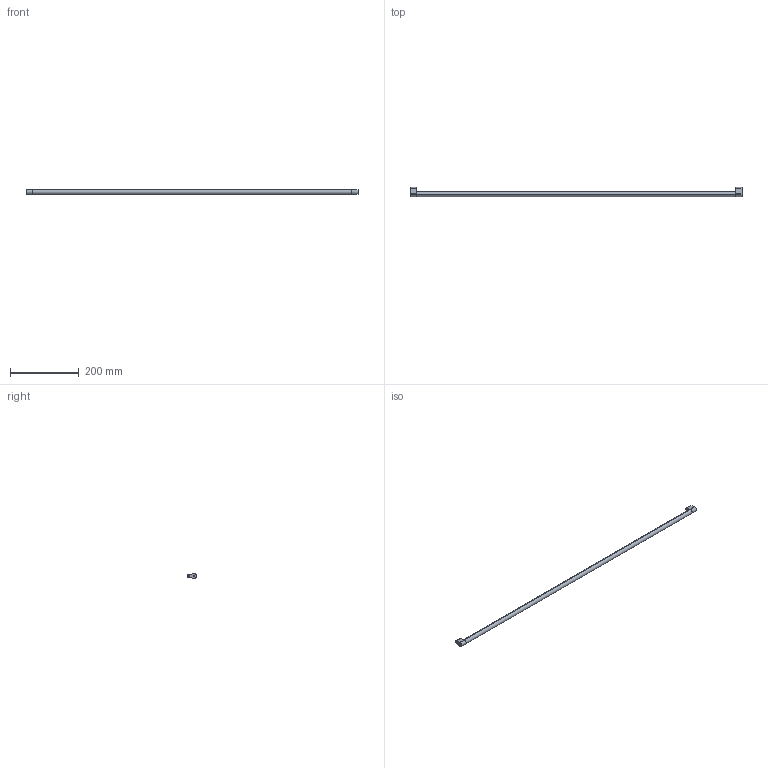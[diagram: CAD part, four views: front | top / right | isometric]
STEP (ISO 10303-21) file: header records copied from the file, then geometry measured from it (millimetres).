
FILE_DESCRIPTION (( 'STEP AP214' ), '1' );
FILE_NAME ('_Synchronisationseinheit Nova Pro KAB1050_S16.step', '2010-07-08T13:58:35', ( 'grass' ), ( '' ), 'SwSTEP 2.0', 'SolidWorks 2010', '' );
FILE_SCHEMA (( 'AUTOMOTIVE_DESIGN' ));
Length unit declared in the file: millimetre
Products named in the file (1): _Synchronisationseinheit Nova Pro KAB1050_S16
Bounding box: 965 x 26.5 x 14 mm (x, y, z)
Volume: 152237 mm3; surface area: 45289.9 mm2
Topology: 3 solids, 3 shells, 36 faces, 78 edges, 52 vertices
Faces by surface type: cylinder 18, plane 18
Entity records: 1050 total; most frequent: DIRECTION 188, CARTESIAN_POINT 167, ORIENTED_EDGE 156, EDGE_CURVE 78, AXIS2_PLACEMENT_3D 73, VERTEX_POINT 52, LINE 42, VECTOR 42
